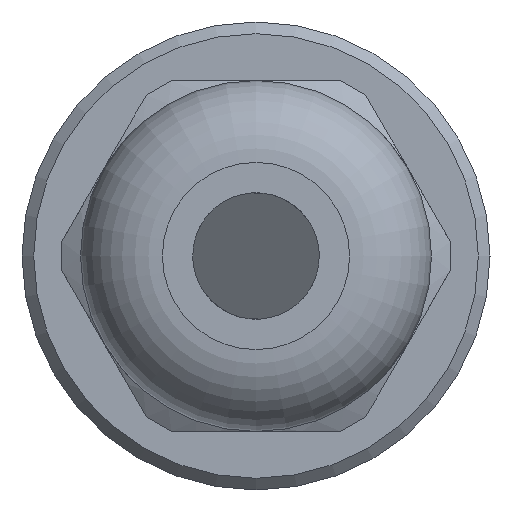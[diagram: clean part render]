
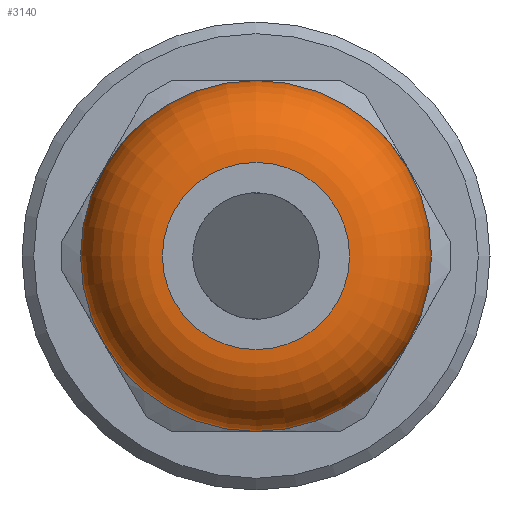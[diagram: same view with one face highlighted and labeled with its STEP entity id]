
A CAD part, left-side view. The second image highlights one B-rep face of the part: STEP entity #3140.
In plain terms, the highlighted toroidal (fillet/blend) face has major radius 4 mm and minor radius 3.5 mm.
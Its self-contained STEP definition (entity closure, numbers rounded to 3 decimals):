
#1263=EDGE_CURVE('solid[2]',#4033,#4033,#4034,.T.);
#3044=EDGE_CURVE('solid[2]',#6597,#6597,#6598,.T.);
#3140=ADVANCED_FACE('solid[2]',(#6710,#6711),#6712,.T.);
#4033=VERTEX_POINT('',#7729);
#4034=CIRCLE('',#7730,7.5);
#6597=VERTEX_POINT('',#12782);
#6598=CIRCLE('',#12783,4.0);
#6710=FACE_BOUND('',#13043,.T.);
#6711=FACE_BOUND('',#13044,.T.);
#6712=TOROIDAL_SURFACE('',#13045,4.0,3.5);
#7729=CARTESIAN_POINT('',(-118.5,7.5,0.0));
#7730=AXIS2_PLACEMENT_3D('',#15271,#15272,#15273);
#12782=CARTESIAN_POINT('',(-122.0,4.0,0.0));
#12783=AXIS2_PLACEMENT_3D('',#17907,#17908,#17909);
#13043=EDGE_LOOP('',(#18027));
#13044=EDGE_LOOP('',(#18028));
#13045=AXIS2_PLACEMENT_3D('',#18029,#18030,#18031);
#15271=CARTESIAN_POINT('',(-118.5,0.0,0.0));
#15272=DIRECTION('',(1.0,0.0,0.0));
#15273=DIRECTION('',(0.0,1.0,0.0));
#17907=CARTESIAN_POINT('',(-122.0,0.0,0.0));
#17908=DIRECTION('',(1.0,0.0,0.0));
#17909=DIRECTION('',(0.0,1.0,0.0));
#18027=ORIENTED_EDGE('',*,*,#1263,.F.);
#18028=ORIENTED_EDGE('',*,*,#3044,.T.);
#18029=CARTESIAN_POINT('',(-118.5,0.0,0.0));
#18030=DIRECTION('',(1.0,0.0,0.0));
#18031=DIRECTION('',(0.0,0.0,-1.0));
